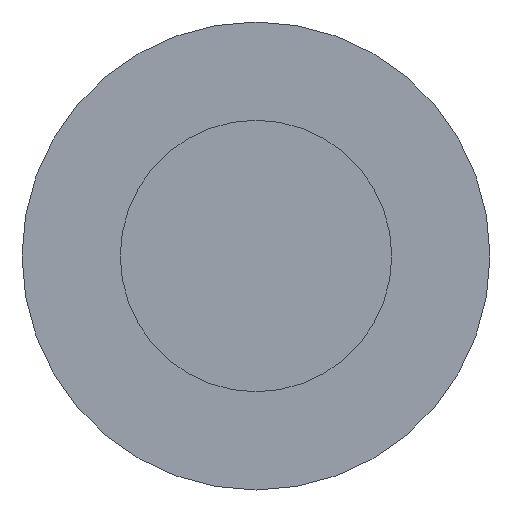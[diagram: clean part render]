
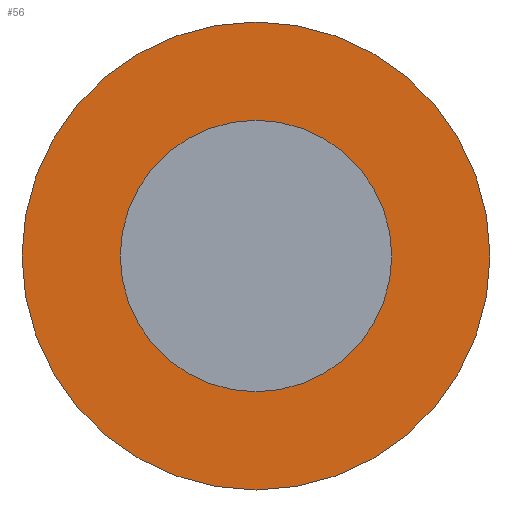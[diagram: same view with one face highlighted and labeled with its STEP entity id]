
A CAD part, front view. The second image highlights one B-rep face of the part: STEP entity #56.
In plain terms, the highlighted planar face has unit normal (0, -1, 0).
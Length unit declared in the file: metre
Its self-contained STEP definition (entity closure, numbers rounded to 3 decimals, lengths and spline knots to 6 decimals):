
#15=PLANE('',#77);
#20=ORIENTED_EDGE('',*,*,#25,.T.);
#21=ORIENTED_EDGE('',*,*,#27,.F.);
#25=EDGE_CURVE('',#29,#29,#33,.T.);
#27=EDGE_CURVE('',#31,#31,#35,.T.);
#29=VERTEX_POINT('',#105);
#31=VERTEX_POINT('',#112);
#33=CIRCLE('',#73,0.0029);
#35=CIRCLE('',#78,0.005);
#40=EDGE_LOOP('',(#20));
#41=EDGE_LOOP('',(#21));
#48=FACE_BOUND('',#40,.T.);
#49=FACE_BOUND('',#41,.T.);
#56=ADVANCED_FACE('',(#48,#49),#15,.F.);
#73=AXIS2_PLACEMENT_3D('',#104,#86,#87);
#77=AXIS2_PLACEMENT_3D('',#110,#94,#95);
#78=AXIS2_PLACEMENT_3D('',#111,#96,#97);
#86=DIRECTION('',(0.,1.,0.));
#87=DIRECTION('',(0.,0.,1.));
#94=DIRECTION('',(0.,1.,0.));
#95=DIRECTION('',(-1.,0.,0.));
#96=DIRECTION('',(0.,1.,0.));
#97=DIRECTION('',(0.,0.,1.));
#104=CARTESIAN_POINT('',(0.017824,0.010224,-0.007289));
#105=CARTESIAN_POINT('',(0.017824,0.010224,-0.004389));
#110=CARTESIAN_POINT('',(-0.007176,0.010224,0.014231));
#111=CARTESIAN_POINT('',(0.017824,0.010224,-0.007289));
#112=CARTESIAN_POINT('',(0.017824,0.010224,-0.002289));
